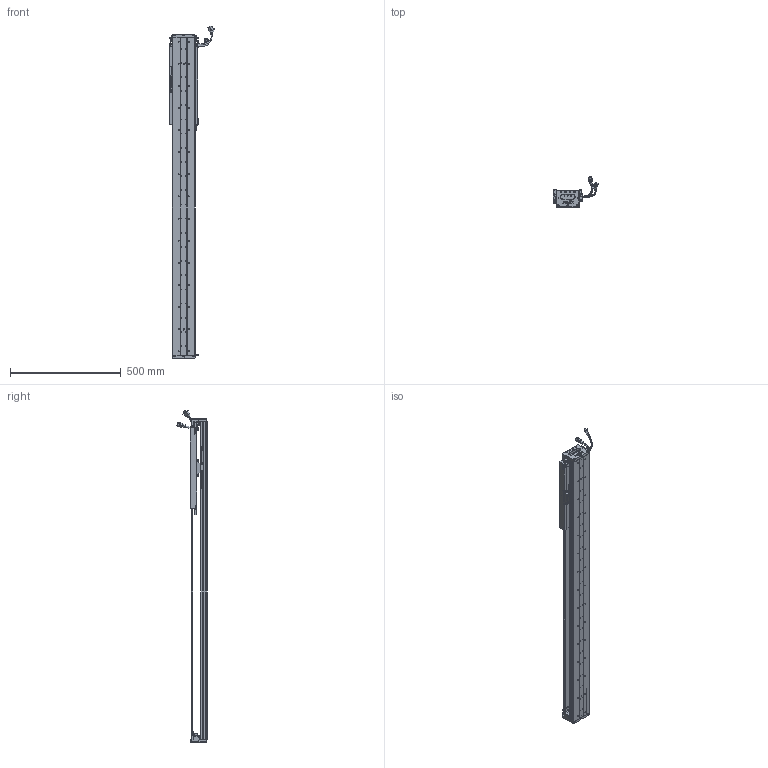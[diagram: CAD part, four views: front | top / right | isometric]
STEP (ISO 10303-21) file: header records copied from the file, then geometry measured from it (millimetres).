
FILE_DESCRIPTION (( 'STEP AP203' ), '1' );
FILE_NAME ('Z5-RY100D-1-L500-B-K.SLDASM_1000.step', '2021-05-17T03:33:00', ( '盈信电脑' ), ( '东莞市道滘镇水果街19号' ), 'SwSTEP 2.0', 'SolidWorks 2016', '' );
FILE_SCHEMA (( 'CONFIG_CONTROL_DESIGN' ));
Length unit declared in the file: millimetre
Products named in the file (36): 覜茼ん672; SCREW-M1.7; SEAL-Part-1; 100-Z-臏賑輸盄裔(21遴); Z5-RY100铝滑块（21款）; LABEL-Part-1; COVER-Part-1; HARNESS; Z-RY100D詩湍狟揤裔; SCALE-Part-1; SCREW-M1.6-3; SEAL; 榋妏寠巭燃_暯_M2_2; 140雄赽晤鎢ん堤盄; SCREW-M1.6-1; HARNESS-Part-1; Z5-RY100D-1-L500-B-K.SLDASM_1000; SCALE; Z-RY100D詩湍奻揤裔; COVER; SCREW-M1.6; HARNESS-Part-2; Z-100詩湍傷裔啣; LABEL; 140蚥薯蝶輸; Z-RY100D覜茼んえ; PSLH080_PSLF2; SCREW-M1.6-2; SHIELDPLATE; Z5-RY100-L500詩湍90mm遵_1000; HOLDER0; SCREW-M1.7-1; SCALE-Part-2; 080黍杅芛假蚾釱21遴; Z5-RY100D-500-倰第菁釱_1000; PBU_SHEET
Assembly tree (43 placements, depth 4):
  Z5-RY100D-1-L500-B-K.SLDASM_1000
    Z5-RY100D-500-倰第菁釱_1000
    Z5-RY100铝滑块（21款）
    PSLH080_PSLF2
      SCALE
        SCALE-Part-1
        SCALE-Part-2
      HARNESS
        HARNESS-Part-1
        HARNESS-Part-2
      LABEL
        LABEL-Part-1
      COVER
        COVER-Part-1
      SEAL
        SEAL-Part-1
      榋妏寠巭燃_暯_M2_2
      SHIELDPLATE
      SCREW-M1.7
      SCREW-M1.7-1
      PBU_SHEET
      SCREW-M1.6
      SCREW-M1.6-1
      SCREW-M1.6-2
      SCREW-M1.6-3
      HOLDER0
    080黍杅芛假蚾釱21遴
    Z-100詩湍傷裔啣  x2
    140蚥薯蝶輸  x2
    覜茼ん672  x3
    Z-RY100D覜茼んえ  x3
    100-Z-臏賑輸盄裔(21遴)
    140雄赽晤鎢ん堤盄
    Z5-RY100-L500詩湍90mm遵_1000
    Z-RY100D詩湍狟揤裔  x2
    Z-RY100D詩湍奻揤裔  x2
Bounding box: 205.84 x 136.11 x 1500.43 mm (x, y, z)
Volume: 3228117.1 mm3; surface area: 1213491.5 mm2
Topology: 38 solids, 38 shells, 2707 faces, 7177 edges, 4552 vertices
Faces by surface type: cylinder 1218, plane 1141, cone 226, torus 69, bspline 53
Entity records: 74903 total; most frequent: CARTESIAN_POINT 15743, DIRECTION 11935, ORIENTED_EDGE 11234, EDGE_CURVE 5617, AXIS2_PLACEMENT_3D 4420, VERTEX_POINT 3620, LINE 3095, VECTOR 3095
